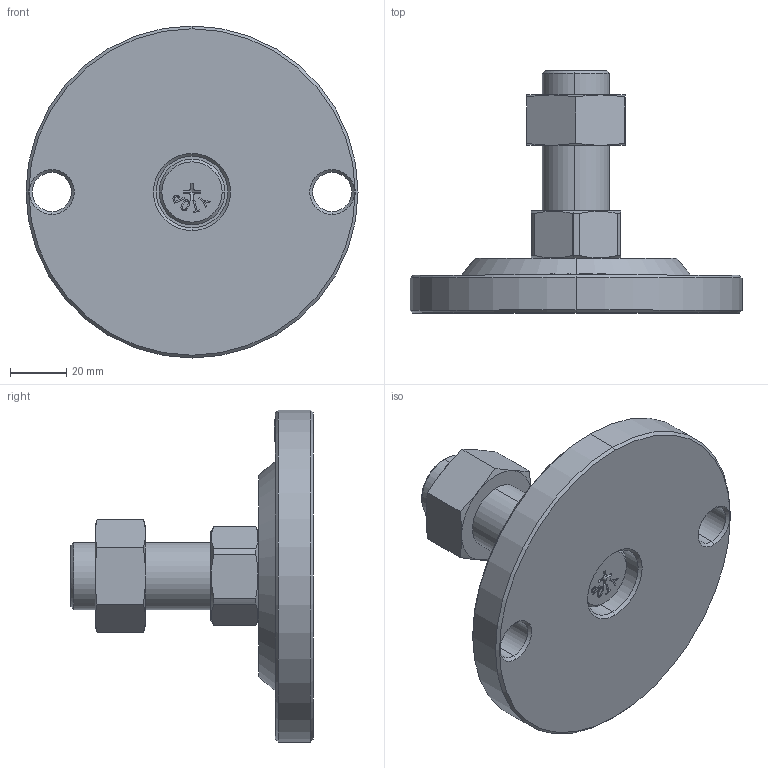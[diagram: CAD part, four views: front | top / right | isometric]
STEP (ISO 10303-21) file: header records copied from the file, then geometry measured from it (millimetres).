
FILE_DESCRIPTION (( 'STEP AP203' ), '1' );
FILE_NAME ('KL-120-2450-P.STEP', '2020-09-10T02:35:32', ( '' ), ( '' ), 'SwSTEP 2.0', 'SolidWorks 2016', '' );
FILE_SCHEMA (( 'CONFIG_CONTROL_DESIGN' ));
Length unit declared in the file: millimetre
Products named in the file (5): KL-120-0.1 KL120菁釱; 眻芛蹟邡M24炵蹈_M24X50; 脚垫调节六角螺母M24; KL-120-2450-P; 螺丝平底十字带商标M10系列_M10X14
Assembly tree (4 placements, depth 2):
  KL-120-2450-P
    KL-120-0.1 KL120菁釱
    眻芛蹟邡M24炵蹈_M24X50
    脚垫调节六角螺母M24
    螺丝平底十字带商标M10系列_M10X14
Bounding box: 118.5 x 86.5 x 118.5 mm (x, y, z)
Volume: 218735.3 mm3; surface area: 42755.1 mm2
Topology: 4 solids, 4 shells, 210 faces, 511 edges, 324 vertices
Faces by surface type: plane 101, cone 52, cylinder 33, bspline 24
Entity records: 8380 total; most frequent: CARTESIAN_POINT 3120, ORIENTED_EDGE 1014, DIRECTION 903, EDGE_CURVE 507, VERTEX_POINT 324, AXIS2_PLACEMENT_3D 307, VECTOR 289, LINE 289
